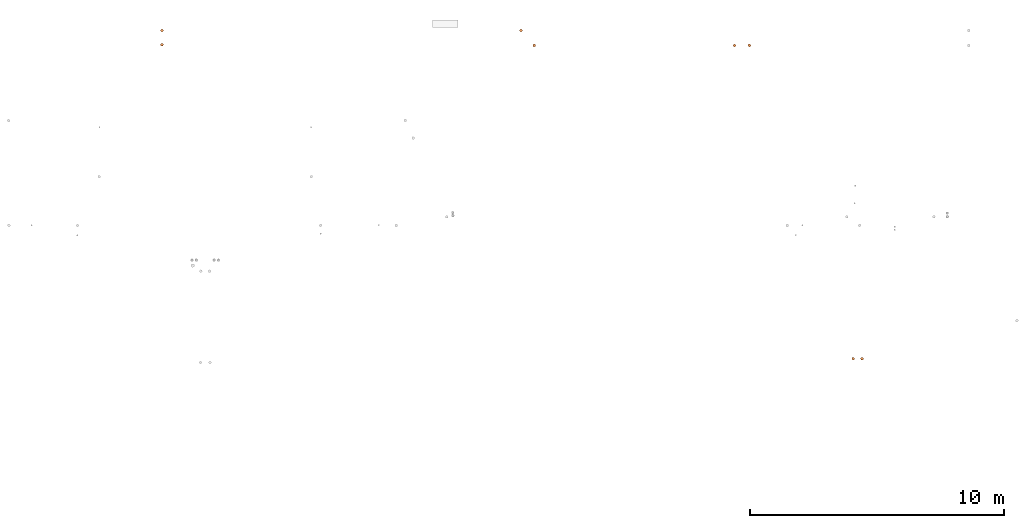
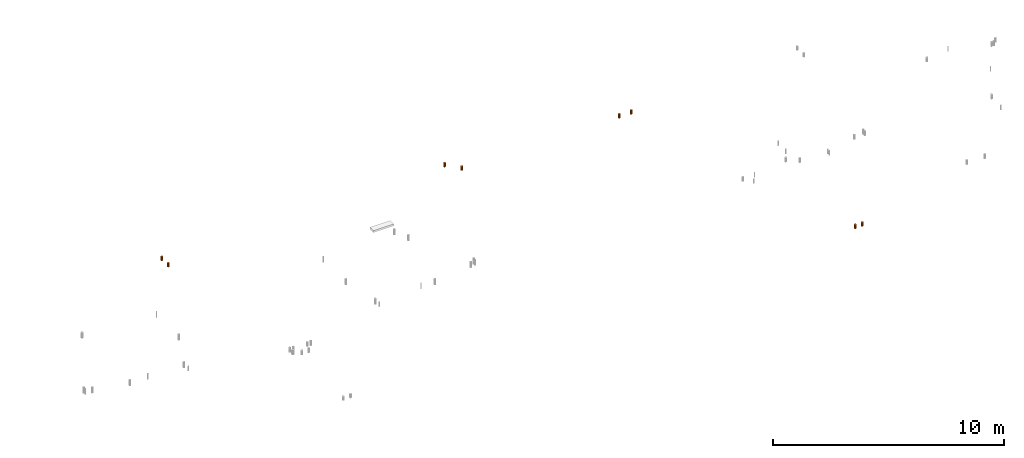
# One storey, part 12 of 16: 8 proxies.
"""IFC2X3 building model written with IfcOpenShell, lengths in centimetres."""

from ifc_helpers import new_model, entity, si_unit, converted_unit, derived_unit, direction, frame, origin, origin_2d_with_axis, place, context, subcontext, project, spatial, circle, extrude, source, transform, mapped, material, type_object, type_shapes, element, save


model = new_model("IFC2X3")

# Units and contexts
model_context = context("Model", 3, precision=0.001, world=origin(), true_north=direction((6.12303176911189e-17, 1.0)))
body_context = subcontext(model_context, "Body", "Model", "MODEL_VIEW")
ifc_project = project(units=[si_unit("LENGTHUNIT", "METRE", prefix="CENTI"), si_unit("AREAUNIT", "SQUARE_METRE"), si_unit("VOLUMEUNIT", "CUBIC_METRE"), converted_unit("PLANEANGLEUNIT", "DEGREE", entity("IfcRatioMeasure", 0.0174532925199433), si_unit("PLANEANGLEUNIT", "RADIAN"), dimensions=[0, 0, 0, 0, 0, 0, 0]), si_unit("MASSUNIT", "GRAM", prefix="KILO"), derived_unit("MASSDENSITYUNIT", [(si_unit("MASSUNIT", "GRAM", prefix="KILO"), 1), (si_unit("LENGTHUNIT", "METRE"), -3)]), si_unit("TIMEUNIT", "SECOND"), si_unit("FREQUENCYUNIT", "HERTZ"), si_unit("THERMODYNAMICTEMPERATUREUNIT", "DEGREE_CELSIUS"), derived_unit("THERMALTRANSMITTANCEUNIT", [(si_unit("MASSUNIT", "GRAM", prefix="KILO"), 1), (si_unit("THERMODYNAMICTEMPERATUREUNIT", "KELVIN"), -1), (si_unit("TIMEUNIT", "SECOND"), -3)]), derived_unit("VOLUMETRICFLOWRATEUNIT", [(si_unit("LENGTHUNIT", "METRE"), 3), (si_unit("TIMEUNIT", "SECOND"), -1)]), si_unit("ELECTRICCURRENTUNIT", "AMPERE"), si_unit("ELECTRICVOLTAGEUNIT", "VOLT"), si_unit("POWERUNIT", "WATT"), si_unit("FORCEUNIT", "NEWTON"), si_unit("ILLUMINANCEUNIT", "LUX"), si_unit("LUMINOUSFLUXUNIT", "LUMEN"), si_unit("LUMINOUSINTENSITYUNIT", "CANDELA"), derived_unit("USERDEFINED", [(si_unit("MASSUNIT", "GRAM", prefix="KILO"), -1), (si_unit("LENGTHUNIT", "METRE"), -2), (si_unit("TIMEUNIT", "SECOND"), 3), (si_unit("LUMINOUSFLUXUNIT", "LUMEN"), 1)]), derived_unit("LINEARVELOCITYUNIT", [(si_unit("LENGTHUNIT", "METRE"), 1), (si_unit("TIMEUNIT", "SECOND"), -1)]), si_unit("PRESSUREUNIT", "PASCAL"), derived_unit("USERDEFINED", [(si_unit("LENGTHUNIT", "METRE"), -2), (si_unit("MASSUNIT", "GRAM", prefix="KILO"), 1), (si_unit("TIMEUNIT", "SECOND"), -2)])], contexts=[model_context])

# Site, building, storey
site_placement = place(None, origin())
site = spatial("IfcSite", under=ifc_project, at=site_placement, Name="Default", CompositionType="ELEMENT")
building_placement = place(site_placement, origin())
building = spatial("IfcBuilding", under=site, at=building_placement, Name="CAGE 03", CompositionType="ELEMENT")
storey_placement = place(building_placement, frame((0.0, 0.0, 65.0)))
storey = spatial("IfcBuildingStorey", under=building, at=storey_placement, Name="Ac RDC", CompositionType="ELEMENT", Elevation=64.9999999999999)

# Proxies
ifc_material = material(Name="BBGO_Résa")
building_element_proxy_type_1 = type_object("IfcBuildingElementProxyType", Name="Ø110", PredefinedType="NOTDEFINED", material=ifc_material)
shared_shape_1 = source(origin(), body_context, "Body", "SweptSolid", [
    extrude(circle(Radius=5.5, at=origin_2d_with_axis()), frame((9668.36582014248, 3941.6606660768, 295.0)), (0.0, 0.0, 1.0), 19.9999999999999),
])
type_shapes(building_element_proxy_type_1, [shared_shape_1])
proxy_1_placement = place(storey_placement, frame((0.0, 0.0, -65.0)))
element("IfcBuildingElementProxy", 1, at=proxy_1_placement, inside=storey, type_object=building_element_proxy_type_1, material=ifc_material, Name="BBGO-Résa circ dalle:Ø110", ObjectType="Ø110", context=body_context, shape_type="MappedRepresentation", body=[
    mapped(shared_shape_1, transform((0.0, 0.0, 0.0), scale=1.0)),
])
building_element_proxy_type_2 = type_object("IfcBuildingElementProxyType", Name="Ø110", PredefinedType="NOTDEFINED", material=ifc_material)
shared_shape_2 = source(origin(), body_context, "Body", "SweptSolid", [
    extrude(circle(Radius=5.5, at=origin_2d_with_axis()), frame((6910.94603846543, 5234.24642234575, 295.0)), (0.0, 0.0, 1.0), 19.9999999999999),
])
type_shapes(building_element_proxy_type_2, [shared_shape_2])
proxy_2_placement = place(storey_placement, frame((0.0, 0.0, -65.0)))
element("IfcBuildingElementProxy", 2, at=proxy_2_placement, inside=storey, type_object=building_element_proxy_type_2, material=ifc_material, Name="BBGO-Résa circ dalle:Ø110", ObjectType="Ø110", context=body_context, shape_type="MappedRepresentation", body=[
    mapped(shared_shape_2, transform((0.0, 0.0, 0.0), scale=1.0)),
])
building_element_proxy_type_3 = type_object("IfcBuildingElementProxyType", Name="Ø110", PredefinedType="NOTDEFINED", material=ifc_material)
shared_shape_3 = source(origin(), body_context, "Body", "SweptSolid", [
    extrude(circle(Radius=5.5, at=origin_2d_with_axis()), frame((9224.79491011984, 5175.42924962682, 295.0)), (0.0, 0.0, 1.0), 20.0),
])
type_shapes(building_element_proxy_type_3, [shared_shape_3])
proxy_3_placement = place(storey_placement, frame((0.0, 0.0, -65.0)))
element("IfcBuildingElementProxy", 3, at=proxy_3_placement, inside=storey, type_object=building_element_proxy_type_3, material=ifc_material, Name="BBGO-Résa circ dalle:Ø110", ObjectType="Ø110", context=body_context, shape_type="MappedRepresentation", body=[
    mapped(shared_shape_3, transform((0.0, 0.0, 0.0), scale=1.0)),
])
building_element_proxy_type_4 = type_object("IfcBuildingElementProxyType", Name="Ø110", PredefinedType="NOTDEFINED", material=ifc_material)
shared_shape_4 = source(origin(), body_context, "Body", "SweptSolid", [
    extrude(circle(Radius=5.5, at=origin_2d_with_axis()), frame((8377.22872267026, 5175.42924962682, 295.0)), (0.0, 0.0, 1.0), 20.0),
])
type_shapes(building_element_proxy_type_4, [shared_shape_4])
proxy_4_placement = place(storey_placement, frame((0.0, 0.0, -65.0)))
element("IfcBuildingElementProxy", 4, at=proxy_4_placement, inside=storey, type_object=building_element_proxy_type_4, material=ifc_material, Name="BBGO-Résa circ dalle:Ø110", ObjectType="Ø110", context=body_context, shape_type="MappedRepresentation", body=[
    mapped(shared_shape_4, transform((0.0, 0.0, 0.0), scale=1.0)),
])
building_element_proxy_type_5 = type_object("IfcBuildingElementProxyType", Name="Ø110", PredefinedType="NOTDEFINED", material=ifc_material)
shared_shape_5 = source(origin(), body_context, "Body", "SweptSolid", [
    extrude(circle(Radius=5.5, at=origin_2d_with_axis()), frame((9633.36582014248, 3941.6606660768, 295.0)), (0.0, 0.0, 1.0), 19.9999999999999),
])
type_shapes(building_element_proxy_type_5, [shared_shape_5])
proxy_5_placement = place(storey_placement, frame((0.0, 0.0, -65.0)))
element("IfcBuildingElementProxy", 5, at=proxy_5_placement, inside=storey, type_object=building_element_proxy_type_5, material=ifc_material, Name="BBGO-Résa circ dalle:Ø110", ObjectType="Ø110", context=body_context, shape_type="MappedRepresentation", body=[
    mapped(shared_shape_5, transform((0.0, 0.0, 0.0), scale=1.0)),
])
building_element_proxy_type_6 = type_object("IfcBuildingElementProxyType", Name="Ø110", PredefinedType="NOTDEFINED", material=ifc_material)
shared_shape_6 = source(origin(), body_context, "Body", "SweptSolid", [
    extrude(circle(Radius=5.5, at=origin_2d_with_axis()), frame((6910.94603846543, 5178.46663184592, 295.0)), (0.0, 0.0, 1.0), 19.9999999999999),
])
type_shapes(building_element_proxy_type_6, [shared_shape_6])
proxy_6_placement = place(storey_placement, frame((0.0, 0.0, -65.0)))
element("IfcBuildingElementProxy", 6, at=proxy_6_placement, inside=storey, type_object=building_element_proxy_type_6, material=ifc_material, Name="BBGO-Résa circ dalle:Ø110", ObjectType="Ø110", context=body_context, shape_type="MappedRepresentation", body=[
    mapped(shared_shape_6, transform((0.0, 0.0, 0.0), scale=1.0)),
])
building_element_proxy_type_7 = type_object("IfcBuildingElementProxyType", Name="Ø110", PredefinedType="NOTDEFINED", material=ifc_material)
shared_shape_7 = source(origin(), body_context, "Body", "SweptSolid", [
    extrude(circle(Radius=5.5, at=origin_2d_with_axis()), frame((8325.2223880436, 5234.24642234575, 295.0)), (0.0, 0.0, 1.0), 20.0),
])
type_shapes(building_element_proxy_type_7, [shared_shape_7])
proxy_7_placement = place(storey_placement, frame((0.0, 0.0, -65.0)))
element("IfcBuildingElementProxy", 7, at=proxy_7_placement, inside=storey, type_object=building_element_proxy_type_7, material=ifc_material, Name="BBGO-Résa circ dalle:Ø110", ObjectType="Ø110", context=body_context, shape_type="MappedRepresentation", body=[
    mapped(shared_shape_7, transform((0.0, 0.0, 0.0), scale=1.0)),
])
building_element_proxy_type_8 = type_object("IfcBuildingElementProxyType", Name="Ø110", PredefinedType="NOTDEFINED", material=ifc_material)
shared_shape_8 = source(origin(), body_context, "Body", "SweptSolid", [
    extrude(circle(Radius=5.5, at=origin_2d_with_axis()), frame((9165.97773740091, 5175.42924962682, 295.0)), (0.0, 0.0, 1.0), 20.0),
])
type_shapes(building_element_proxy_type_8, [shared_shape_8])
proxy_8_placement = place(storey_placement, frame((0.0, 0.0, -65.0)))
element("IfcBuildingElementProxy", 8, at=proxy_8_placement, inside=storey, type_object=building_element_proxy_type_8, material=ifc_material, Name="BBGO-Résa circ dalle:Ø110", ObjectType="Ø110", context=body_context, shape_type="MappedRepresentation", body=[
    mapped(shared_shape_8, transform((0.0, 0.0, 0.0), scale=1.0)),
])

save(model, "model.ifc")
